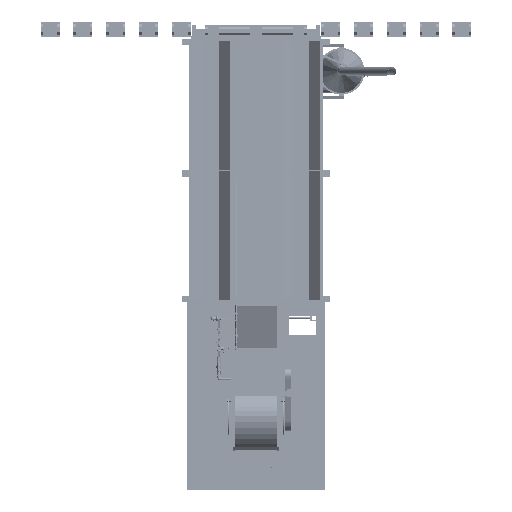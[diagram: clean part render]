
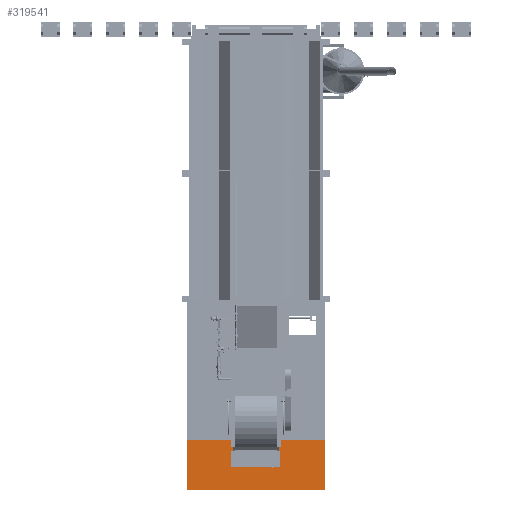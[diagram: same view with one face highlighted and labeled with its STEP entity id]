
A CAD part, front view. The second image highlights one B-rep face of the part: STEP entity #319541.
In plain terms, the highlighted planar face has unit normal (0, -1, 0) as drawn and (1, 0, 0) by its records, which use the part's own axes.
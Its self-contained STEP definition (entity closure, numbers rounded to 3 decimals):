
#60707=FACE_OUTER_BOUND('',#79749,.T.);
#79749=EDGE_LOOP('',(#282868,#282869,#282870,#282871));
#101914=LINE('',#754756,#127169);
#101950=LINE('',#754824,#127205);
#101962=LINE('',#754847,#127217);
#101963=LINE('',#754848,#127218);
#127169=VECTOR('',#418989,0.394);
#127205=VECTOR('',#419043,0.394);
#127217=VECTOR('',#419067,0.394);
#127218=VECTOR('',#419068,0.394);
#157273=VERTEX_POINT('',#754753);
#157274=VERTEX_POINT('',#754755);
#157297=VERTEX_POINT('',#754822);
#157302=VERTEX_POINT('',#754846);
#199911=EDGE_CURVE('',#157273,#157274,#101914,.T.);
#199947=EDGE_CURVE('',#157273,#157297,#101950,.T.);
#199959=EDGE_CURVE('',#157297,#157302,#101962,.T.);
#199960=EDGE_CURVE('',#157302,#157274,#101963,.T.);
#282868=ORIENTED_EDGE('',*,*,#199947,.T.);
#282869=ORIENTED_EDGE('',*,*,#199959,.T.);
#282870=ORIENTED_EDGE('',*,*,#199960,.T.);
#282871=ORIENTED_EDGE('',*,*,#199911,.F.);
#302683=PLANE('',#347837);
#319541=ADVANCED_FACE('',(#60707),#302683,.T.);
#347837=AXIS2_PLACEMENT_3D('',#754845,#419065,#419066);
#418989=DIRECTION('',(0.,0.,1.));
#419043=DIRECTION('',(0.,1.,0.));
#419065=DIRECTION('center_axis',(1.,0.,0.));
#419066=DIRECTION('ref_axis',(0.,0.,-1.));
#419067=DIRECTION('',(0.,0.,1.));
#419068=DIRECTION('',(0.,-1.,0.));
#754753=CARTESIAN_POINT('',(-0.125,-30.,101.063));
#754755=CARTESIAN_POINT('',(-0.125,-30.,137.75));
#754756=CARTESIAN_POINT('',(-0.125,-30.,0.));
#754822=CARTESIAN_POINT('',(-0.125,70.5,101.063));
#754824=CARTESIAN_POINT('',(-0.125,20.25,101.063));
#754845=CARTESIAN_POINT('Origin',(-0.125,70.5,0.));
#754846=CARTESIAN_POINT('',(-0.125,70.5,137.75));
#754847=CARTESIAN_POINT('',(-0.125,70.5,0.));
#754848=CARTESIAN_POINT('',(-0.125,-30.,137.75));
